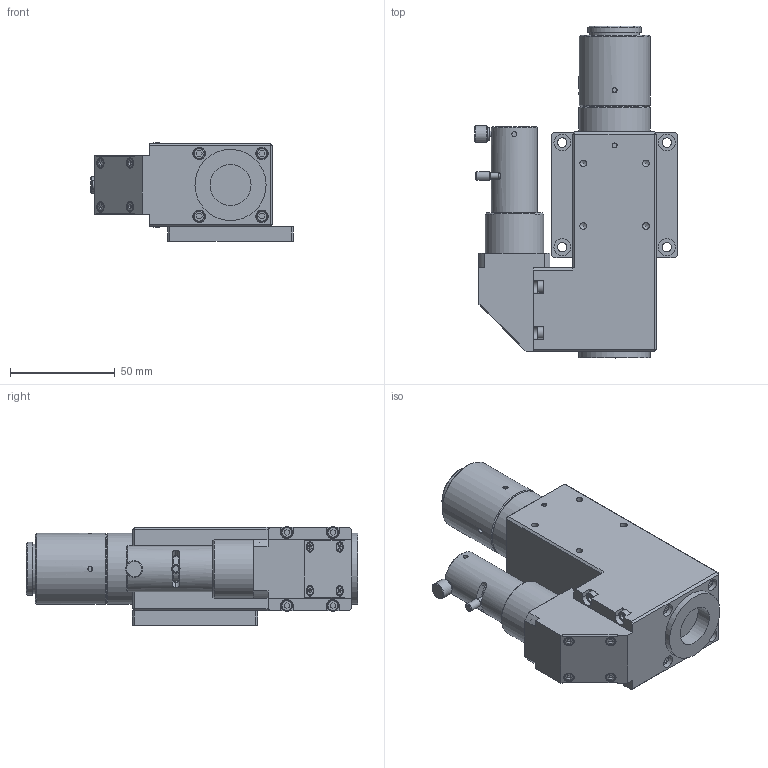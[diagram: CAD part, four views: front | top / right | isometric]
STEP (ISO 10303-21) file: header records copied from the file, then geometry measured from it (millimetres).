
FILE_DESCRIPTION((''),'2;1');
FILE_NAME('//fs001/share/Public_Corp/41_技術・開発/00_図面/04_光学システム/01_Sys01/Axx/AFx/AFMxx_(観察光学系)/AFM16_同軸照明付観察ユニット(1x)/160xx_', '2021-03-08T10:55:33',(''), ('シグマ光機'), 'KCM Version 2.0.6753.6753', 'KeyCreator Pro', '');
FILE_SCHEMA(('AUTOMOTIVE_DESIGN'));
Length unit declared in the file: millimetre
Bounding box: 96.85 x 158.68 x 47.24 mm (x, y, z)
Volume: 317950 mm3; surface area: 49036.4 mm2
Topology: 2 solids, 16 shells, 568 faces, 1305 edges, 837 vertices
Faces by surface type: plane 366, cylinder 129, cone 73
Full cylindrical faces by diameter (mm): 1.7 x1, 2.4 x9, 3 x2, 3.2 x18, 4 x6, 4.5 x16, 5 x8, 5.5 x8, 6 x5, 6.5 x1, 7 x4, 8 x10, 14 x1, 19.614 x1, 22 x1, 23.8 x1, 25 x1, 25.294 x1, 25.4 x1, 26 x1, 28 x1, 34 x3
Entity records: 16386 total; most frequent: CARTESIAN_POINT 3567, DIRECTION 2615, ORIENTED_EDGE 2560, EDGE_CURVE 1280, AXIS2_PLACEMENT_3D 884, VECTOR 847, LINE 847, VERTEX_POINT 831
